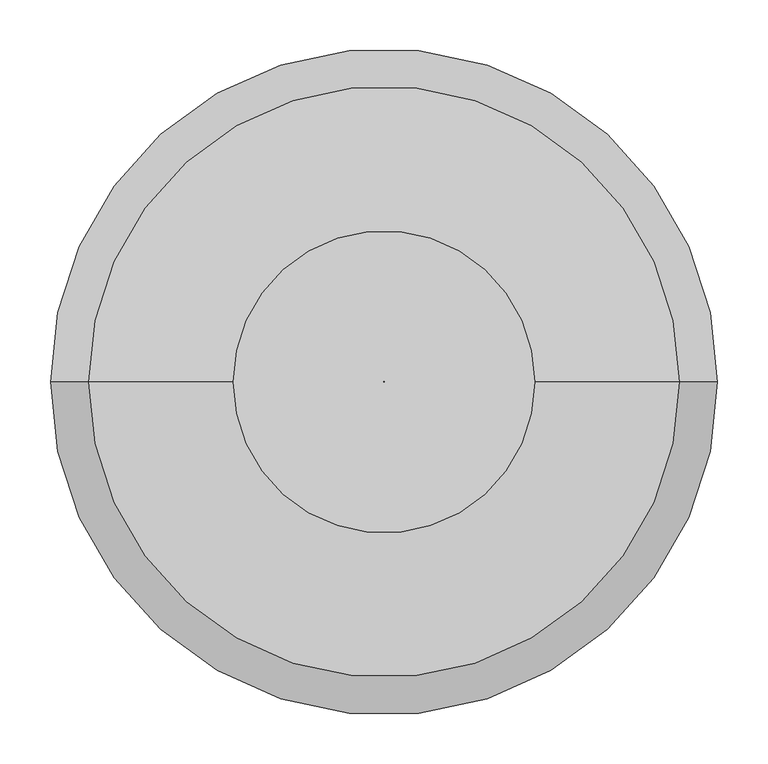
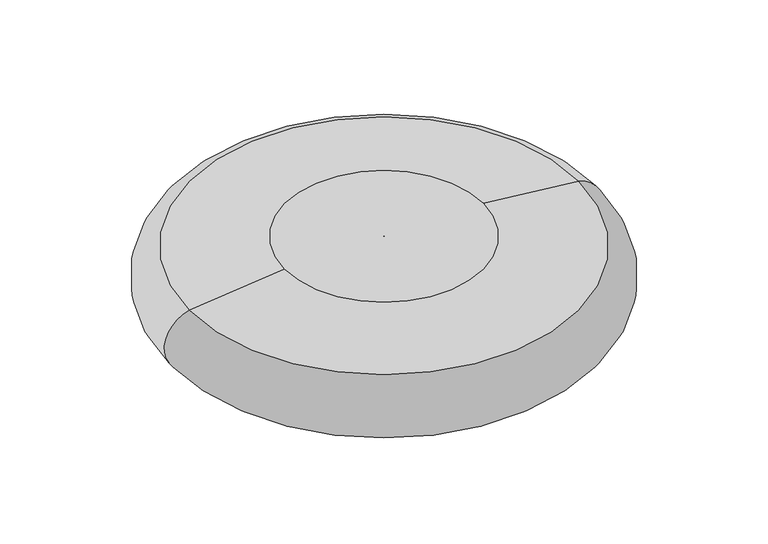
"""IFC4 building model written with IfcOpenShell, lengths in millimetres: proxy geometry, COJIN11 : COJIN."""

from ifc_helpers import new_model, si_unit, point, frame, origin, place, context, project, spatial, polyline, circle_curve, ellipse_curve, trimmed, source, transform, mapped, element, save
from ifc_brep_helpers import plane_surface, revolved_surface, advanced_brep


def generic_models_b54d9938(model_context):
    return source(origin(), model_context, "Body", "AdvancedBrep", [
        advanced_brep(
        [(12603.1838221, 7148.5849257, -906.6165305), (12017.9491708, 7148.5849257, -906.6165305), (12030.5916781, 7148.5849257, -1004.9918032), (12590.5413148, 7148.5849257, -1004.9918032), (12460.0938494, 7148.5849257, -891.7804137), (12161.0391435, 7148.5849257, -891.7804137), (12310.8837091, 7148.5849257, -1004.9918032), (12310.2492838, 7148.5849257, -1004.9918032), (12310.2492838, 7148.5849257, -891.7804137), (12310.8837091, 7148.5849257, -891.7804137)],
        [
            (0, 1, circle_curve(frame((12310.5664965, 7148.5849257, -906.6165305), z_axis=(0.0, 0.0, -1.0), x_axis=(-1.0, 0.0, 0.0)), 292.6173257)),
            (1, 2, circle_curve(frame((12030.5916781, 7148.5849257, -954.9918032), z_axis=(0.0, -1.0, 0.0), x_axis=(1.0, 0.0, 0.0)), 50.0)),
            (2, 3, circle_curve(frame((12310.5664965, 7148.5849257, -1004.9918032), z_axis=(0.0, 0.0, 1.0), x_axis=(-1.0, 0.0, 0.0)), 279.9748183)),
            (3, 0, circle_curve(frame((12590.5413148, 7148.5849257, -954.9918032), z_axis=(0.0, -1.0, 0.0), x_axis=(-1.0, 0.0, 0.0)), 50.0)),
            (4, 5, circle_curve(frame((12310.5664965, 7148.5849257, -891.7804137), z_axis=(0.0, 0.0, -1.0), x_axis=(-1.0, 0.0, 0.0)), 149.527353)),
            (5, 1),
            (0, 4),
            (6, 7, circle_curve(frame((12310.5664965, 7148.5849257, -1004.9918032), z_axis=(0.0, 0.0, -1.0), x_axis=(-1.0, 0.0, 0.0)), 0.3172127)),
            (7, 8),
            (8, 9, circle_curve(frame((12310.5664965, 7148.5849257, -891.7804137), z_axis=(0.0, 0.0, 1.0), x_axis=(-1.0, 0.0, 0.0)), 0.3172127)),
            (9, 6),
            (1, 0, circle_curve(frame((12310.5664965, 7148.5849257, -906.6165305), z_axis=(0.0, 0.0, -1.0), x_axis=(1.0, 0.0, 0.0)), 292.6173257)),
            (3, 2, circle_curve(frame((12310.5664965, 7148.5849257, -1004.9918032), z_axis=(0.0, 0.0, 1.0), x_axis=(1.0, 0.0, 0.0)), 279.9748183)),
            (5, 4, circle_curve(frame((12310.5664965, 7148.5849257, -891.7804137), z_axis=(0.0, 0.0, -1.0), x_axis=(1.0, 0.0, 0.0)), 149.527353)),
            (8, 9, circle_curve(frame((12310.5664965, 7148.5849257, -891.7804137), z_axis=(0.0, 0.0, -1.0), x_axis=(1.0, 0.0, 0.0)), 0.3172127)),
            (7, 6, circle_curve(frame((12310.5664965, 7148.5849257, -1004.9918032), z_axis=(0.0, 0.0, -1.0), x_axis=(1.0, 0.0, 0.0)), 0.3172127)),
        ],
        [
            revolved_surface(trimmed(ellipse_curve(frame((12030.5916781, 7148.5849257, -954.9918032), z_axis=(0.0, 1.0, 0.0), x_axis=(1.0, 0.0, 0.0)), 50.0, 50.0), [point((12030.5916781, 7148.5849257, -1004.9918032))], [point((12017.9491708, 7148.5849257, -906.6165305))], True, "CARTESIAN"), (12310.5664965, 7148.5849257, 0.0), (0.0, 0.0, 1.0)),
            revolved_surface(polyline([(12017.9491708, 7148.5849257, -906.6165305), (12161.0391435, 7148.5849257, -891.7804137)]), (12310.5664965, 7148.5849257, 0.0), (0.0, 0.0, 1.0)),
            revolved_surface(polyline([(12310.2492838, 7148.5849257, -891.7804137), (12310.2492838, 7148.5849257, -1004.9918032)]), (12310.5664965, 7148.5849257, 0.0), (0.0, 0.0, 1.0)),
            revolved_surface(trimmed(ellipse_curve(frame((12590.5413148, 7148.5849257, -954.9918032), z_axis=(0.0, -1.0, 0.0), x_axis=(-1.0, 0.0, 0.0)), 50.0, 50.0), [point((12590.5413148, 7148.5849257, -1004.9918032))], [point((12603.1838221, 7148.5849257, -906.6165305))], True, "CARTESIAN"), (12310.5664965, 7148.5849257, 0.0), (0.0, 0.0, 1.0)),
            revolved_surface(polyline([(12603.1838221, 7148.5849257, -906.6165305), (12460.0938494, 7148.5849257, -891.7804137)]), (12310.5664965, 7148.5849257, 0.0), (0.0, 0.0, 1.0)),
            plane_surface(frame((12310.5664965, 7148.5849257, -891.7804137), z_axis=(0.0, 0.0, 1.0), x_axis=(1.0, 0.0, 0.0))),
            revolved_surface(polyline([(12310.8837092, 7148.5849257, -891.7804137), (12310.8837092, 7148.5849257, -1004.9918032)]), (12310.5664965, 7148.5849257, 0.0), (0.0, 0.0, 1.0)),
            plane_surface(frame((12310.5664965, 7148.5849257, -1004.9918032), z_axis=(0.0, 0.0, -1.0), x_axis=(1.0, 0.0, 0.0))),
        ],
        [
            (0, [[1, 2, 3, 4]]),
            (1, [[5, 6, -1, 7]]),
            (2, [[8, 9, 10, 11]]),
            (3, [[12, -4, 13, -2]]),
            (4, [[14, -7, -12, -6]]),
            (5, [[-14, -5], [15, -10]]),
            (6, [[16, -11, -15, -9]]),
            (7, [[-13, -3], [-16, -8]]),
        ],
    ),
    ])


if __name__ == "__main__":
    model = new_model("IFC4")
    model_context = context("Model", 3, world=origin())
    ifc_project = project(units=[si_unit("LENGTHUNIT", "METRE", prefix="MILLI")], contexts=[model_context])
    site = spatial("IfcSite", under=ifc_project)
    building = spatial("IfcBuilding", under=site)
    placement = place(None, origin())
    generic_models_shape = generic_models_b54d9938(model_context)
    element("IfcBuildingElementProxy", 1, Name="COJIN11 : COJIN", ObjectType="COJIN11 : COJIN", at=placement, inside=building, context=model_context, shape_type="MappedRepresentation", body=[
        mapped(generic_models_shape, transform((0.0, 0.0, 0.0), x_axis=(1.0, 0.0, 0.0), y_axis=(0.0, 1.0, 0.0), z_axis=(0.0, 0.0, 1.0))),
    ])
    save(model, "model.ifc")
